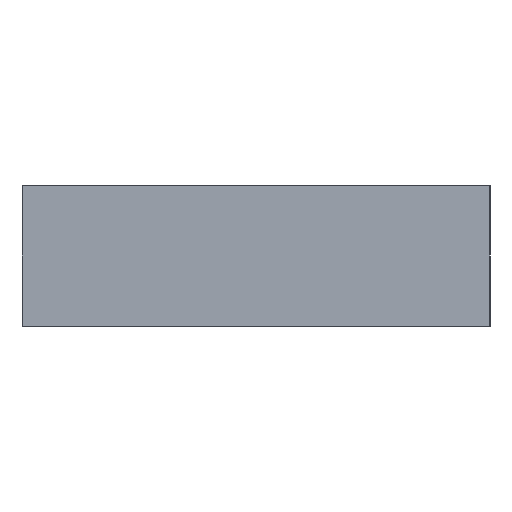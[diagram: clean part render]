
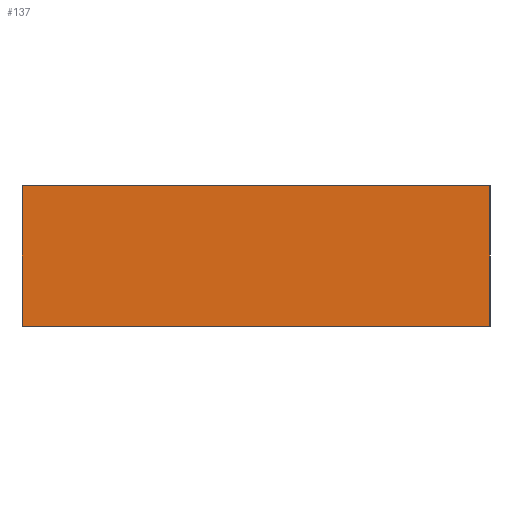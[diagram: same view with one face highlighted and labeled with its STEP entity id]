
A CAD part, left-side view. The second image highlights one B-rep face of the part: STEP entity #137.
In plain terms, the highlighted planar face has unit normal (-1, 0, 0).
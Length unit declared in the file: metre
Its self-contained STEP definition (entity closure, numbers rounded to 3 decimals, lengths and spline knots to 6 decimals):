
#22=ORIENTED_EDGE('',*,*,#54,.T.);
#23=ORIENTED_EDGE('',*,*,#55,.F.);
#24=ORIENTED_EDGE('',*,*,#56,.F.);
#25=ORIENTED_EDGE('',*,*,#51,.T.);
#51=EDGE_CURVE('',#68,#66,#79,.T.);
#54=EDGE_CURVE('',#66,#70,#82,.T.);
#55=EDGE_CURVE('',#71,#70,#83,.T.);
#56=EDGE_CURVE('',#68,#71,#84,.T.);
#66=VERTEX_POINT('',#210);
#68=VERTEX_POINT('',#213);
#70=VERTEX_POINT('',#219);
#71=VERTEX_POINT('',#221);
#79=LINE('',#212,#91);
#82=LINE('',#218,#94);
#83=LINE('',#220,#95);
#84=LINE('',#222,#96);
#91=VECTOR('',#174,1.);
#94=VECTOR('',#179,1.);
#95=VECTOR('',#180,1.);
#96=VECTOR('',#181,1.);
#103=EDGE_LOOP('',(#22,#23,#24,#25));
#117=FACE_BOUND('',#103,.T.);
#131=PLANE('',#158);
#137=ADVANCED_FACE('',(#117),#131,.F.);
#158=AXIS2_PLACEMENT_3D('',#217,#177,#178);
#174=DIRECTION('',(0.,0.,-1.));
#177=DIRECTION('',(1.,0.,0.));
#178=DIRECTION('',(0.,0.,-1.));
#179=DIRECTION('',(0.,-1.,0.));
#180=DIRECTION('',(0.,0.,-1.));
#181=DIRECTION('',(0.,-1.,0.));
#210=CARTESIAN_POINT('',(-0.323388,-0.169797,0.));
#212=CARTESIAN_POINT('',(-0.323388,-0.169797,0.003));
#213=CARTESIAN_POINT('',(-0.323388,-0.169797,0.003));
#217=CARTESIAN_POINT('',(-0.323388,-0.174797,0.003));
#218=CARTESIAN_POINT('',(-0.323388,-0.174797,0.));
#219=CARTESIAN_POINT('',(-0.323388,-0.179797,0.));
#220=CARTESIAN_POINT('',(-0.323388,-0.179797,0.003));
#221=CARTESIAN_POINT('',(-0.323388,-0.179797,0.003));
#222=CARTESIAN_POINT('',(-0.323388,-0.174797,0.003));
